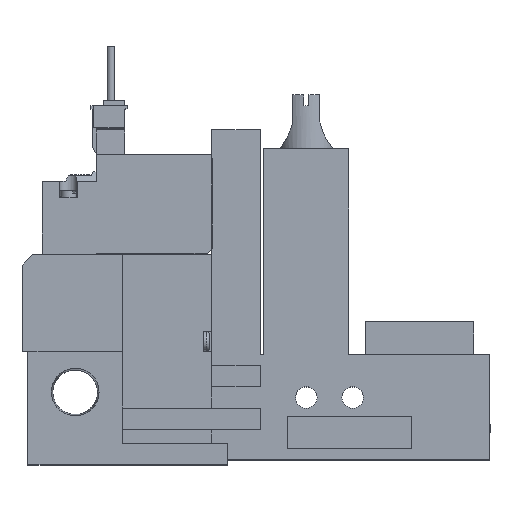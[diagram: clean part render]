
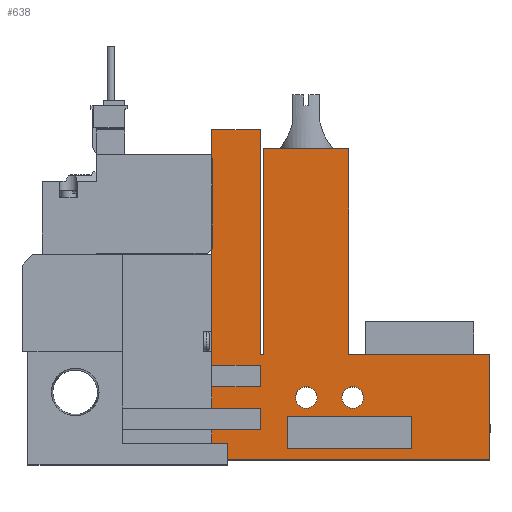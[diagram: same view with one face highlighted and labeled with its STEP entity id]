
A CAD part, top view. The second image highlights one B-rep face of the part: STEP entity #638.
In plain terms, the highlighted planar face has unit normal (0, 0, 1).
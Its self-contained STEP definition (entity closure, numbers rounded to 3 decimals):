
#638=ADVANCED_FACE('',(#1318,#1319,#1320,#1321),#1322,.T.);
#1318=FACE_OUTER_BOUND('',#2140,.T.);
#1319=FACE_BOUND('',#2141,.T.);
#1320=FACE_BOUND('',#2142,.T.);
#1321=FACE_BOUND('',#2143,.T.);
#1322=PLANE('',#2144);
#2140=EDGE_LOOP('',(#4671,#4672,#4673,#4674,#4675,#4676,#4677,#4678,#4679,#4680,#4681,#4682,#4683,#4684,#4685,#4686,#4687,#4688));
#2141=EDGE_LOOP('',(#4689,#4690,#4691,#4692));
#2142=EDGE_LOOP('',(#4693));
#2143=EDGE_LOOP('',(#4694));
#2144=AXIS2_PLACEMENT_3D('',#4695,#4696,#4697);
#4671=ORIENTED_EDGE('',*,*,#6043,.T.);
#4672=ORIENTED_EDGE('',*,*,#5974,.T.);
#4673=ORIENTED_EDGE('',*,*,#5965,.T.);
#4674=ORIENTED_EDGE('',*,*,#6002,.T.);
#4675=ORIENTED_EDGE('',*,*,#5979,.T.);
#4676=ORIENTED_EDGE('',*,*,#6013,.T.);
#4677=ORIENTED_EDGE('',*,*,#5948,.T.);
#4678=ORIENTED_EDGE('',*,*,#6088,.T.);
#4679=ORIENTED_EDGE('',*,*,#6012,.T.);
#4680=ORIENTED_EDGE('',*,*,#6061,.T.);
#4681=ORIENTED_EDGE('',*,*,#5968,.T.);
#4682=ORIENTED_EDGE('',*,*,#6089,.T.);
#4683=ORIENTED_EDGE('',*,*,#6090,.T.);
#4684=ORIENTED_EDGE('',*,*,#5997,.T.);
#4685=ORIENTED_EDGE('',*,*,#6074,.T.);
#4686=ORIENTED_EDGE('',*,*,#6075,.T.);
#4687=ORIENTED_EDGE('',*,*,#6023,.T.);
#4688=ORIENTED_EDGE('',*,*,#6091,.T.);
#4689=ORIENTED_EDGE('',*,*,#6092,.T.);
#4690=ORIENTED_EDGE('',*,*,#6093,.T.);
#4691=ORIENTED_EDGE('',*,*,#6094,.T.);
#4692=ORIENTED_EDGE('',*,*,#6095,.T.);
#4693=ORIENTED_EDGE('',*,*,#6068,.T.);
#4694=ORIENTED_EDGE('',*,*,#6067,.T.);
#4695=CARTESIAN_POINT('',(0.0,0.0,10.0));
#4696=DIRECTION('',(0.0,0.0,1.0));
#4697=DIRECTION('',(1.0,0.0,0.0));
#5948=EDGE_CURVE('',#7308,#7313,#7315,.T.);
#5965=EDGE_CURVE('',#7342,#7347,#7349,.T.);
#5968=EDGE_CURVE('',#7355,#7353,#7356,.T.);
#5974=EDGE_CURVE('',#7360,#7342,#7365,.T.);
#5979=EDGE_CURVE('',#7373,#7371,#7374,.T.);
#5997=EDGE_CURVE('',#7404,#7402,#7405,.T.);
#6002=EDGE_CURVE('',#7347,#7373,#7411,.T.);
#6012=EDGE_CURVE('',#7424,#7428,#7430,.T.);
#6013=EDGE_CURVE('',#7371,#7308,#7431,.T.);
#6023=EDGE_CURVE('',#7449,#7447,#7450,.T.);
#6043=EDGE_CURVE('',#7480,#7360,#7481,.T.);
#6061=EDGE_CURVE('',#7428,#7355,#7507,.T.);
#6067=EDGE_CURVE('',#7516,#7516,#7517,.T.);
#6068=EDGE_CURVE('',#7518,#7518,#7519,.T.);
#6074=EDGE_CURVE('',#7402,#7526,#7528,.T.);
#6075=EDGE_CURVE('',#7526,#7449,#7529,.T.);
#6088=EDGE_CURVE('',#7313,#7424,#7547,.T.);
#6089=EDGE_CURVE('',#7353,#7548,#7549,.T.);
#6090=EDGE_CURVE('',#7548,#7404,#7550,.T.);
#6091=EDGE_CURVE('',#7447,#7480,#7551,.T.);
#6092=EDGE_CURVE('',#7552,#7553,#7554,.T.);
#6093=EDGE_CURVE('',#7553,#7555,#7556,.T.);
#6094=EDGE_CURVE('',#7555,#7557,#7558,.T.);
#6095=EDGE_CURVE('',#7557,#7552,#7559,.T.);
#7308=VERTEX_POINT('',#9488);
#7313=VERTEX_POINT('',#9495);
#7315=LINE('',#9498,#9499);
#7342=VERTEX_POINT('',#9536);
#7347=VERTEX_POINT('',#9543);
#7349=LINE('',#9546,#9547);
#7353=VERTEX_POINT('',#9552);
#7355=VERTEX_POINT('',#9555);
#7356=LINE('',#9556,#9557);
#7360=VERTEX_POINT('',#9562);
#7365=LINE('',#9570,#9571);
#7371=VERTEX_POINT('',#9580);
#7373=VERTEX_POINT('',#9583);
#7374=LINE('',#9584,#9585);
#7402=VERTEX_POINT('',#9628);
#7404=VERTEX_POINT('',#9631);
#7405=LINE('',#9632,#9633);
#7411=LINE('',#9642,#9643);
#7424=VERTEX_POINT('',#9662);
#7428=VERTEX_POINT('',#9668);
#7430=LINE('',#9671,#9672);
#7431=LINE('',#9673,#9674);
#7447=VERTEX_POINT('',#9696);
#7449=VERTEX_POINT('',#9699);
#7450=LINE('',#9700,#9701);
#7480=VERTEX_POINT('',#9748);
#7481=LINE('',#9749,#9750);
#7507=LINE('',#9791,#9792);
#7516=VERTEX_POINT('',#9806);
#7517=CIRCLE('',#9807,2.0);
#7518=VERTEX_POINT('',#9808);
#7519=CIRCLE('',#9809,2.0);
#7526=VERTEX_POINT('',#9841);
#7528=LINE('',#9844,#9845);
#7529=LINE('',#9846,#9847);
#7547=LINE('',#9875,#9876);
#7548=VERTEX_POINT('',#9877);
#7549=LINE('',#9878,#9879);
#7550=LINE('',#9880,#9881);
#7551=LINE('',#9882,#9883);
#7552=VERTEX_POINT('',#9884);
#7553=VERTEX_POINT('',#9885);
#7554=LINE('',#9886,#9887);
#7555=VERTEX_POINT('',#9888);
#7556=LINE('',#9889,#9890);
#7557=VERTEX_POINT('',#9891);
#7558=LINE('',#9892,#9893);
#7559=LINE('',#9894,#9895);
#9488=CARTESIAN_POINT('',(44.1,9.5,10.0));
#9495=CARTESIAN_POINT('',(44.1,5.5,10.0));
#9498=CARTESIAN_POINT('',(44.1,0.0,10.0));
#9499=VECTOR('',#11072,1.0);
#9536=CARTESIAN_POINT('',(44.1,17.5,10.0));
#9543=CARTESIAN_POINT('',(44.1,13.5,10.0));
#9546=CARTESIAN_POINT('',(44.1,0.0,10.0));
#9547=VECTOR('',#11095,1.0);
#9552=CARTESIAN_POINT('',(86.6,19.5,10.0));
#9555=CARTESIAN_POINT('',(86.6,0.0,10.0));
#9556=CARTESIAN_POINT('',(86.6,0.0,10.0));
#9557=VECTOR('',#11098,1.0);
#9562=CARTESIAN_POINT('',(35.1,17.5,10.0));
#9570=CARTESIAN_POINT('',(0.0,17.5,10.0));
#9571=VECTOR('',#11106,1.0);
#9580=CARTESIAN_POINT('',(35.1,9.5,10.0));
#9583=CARTESIAN_POINT('',(35.1,13.5,10.0));
#9584=CARTESIAN_POINT('',(35.1,0.0,10.0));
#9585=VECTOR('',#11111,1.0);
#9628=CARTESIAN_POINT('',(44.75,57.5,10.0));
#9631=CARTESIAN_POINT('',(60.45,57.5,10.0));
#9632=CARTESIAN_POINT('',(60.45,57.5,10.0));
#9633=VECTOR('',#11131,1.0);
#9642=CARTESIAN_POINT('',(0.0,13.5,10.0));
#9643=VECTOR('',#11138,1.0);
#9662=CARTESIAN_POINT('',(35.1,5.5,10.0));
#9668=CARTESIAN_POINT('',(35.1,0.0,10.0));
#9671=CARTESIAN_POINT('',(35.1,0.0,10.0));
#9672=VECTOR('',#11148,1.0);
#9673=CARTESIAN_POINT('',(0.0,9.5,10.0));
#9674=VECTOR('',#11149,1.0);
#9696=CARTESIAN_POINT('',(44.1,61.0,10.0));
#9699=CARTESIAN_POINT('',(44.1,19.5,10.0));
#9700=CARTESIAN_POINT('',(44.1,19.5,10.0));
#9701=VECTOR('',#11163,1.0);
#9748=CARTESIAN_POINT('',(35.1,61.0,10.0));
#9749=CARTESIAN_POINT('',(35.1,61.0,10.0));
#9750=VECTOR('',#11187,1.0);
#9791=CARTESIAN_POINT('',(18.6,0.0,10.0));
#9792=VECTOR('',#11209,1.0);
#9806=CARTESIAN_POINT('',(63.2,11.5,10.0));
#9807=AXIS2_PLACEMENT_3D('',#11215,#11216,#11217);
#9808=CARTESIAN_POINT('',(54.6,11.5,10.0));
#9809=AXIS2_PLACEMENT_3D('',#11218,#11219,#11220);
#9841=CARTESIAN_POINT('',(44.75,19.5,10.0));
#9844=CARTESIAN_POINT('',(44.75,57.5,10.0));
#9845=VECTOR('',#11227,1.0);
#9846=CARTESIAN_POINT('',(44.75,19.5,10.0));
#9847=VECTOR('',#11228,1.0);
#9875=CARTESIAN_POINT('',(0.0,5.5,10.0));
#9876=VECTOR('',#11245,1.0);
#9877=CARTESIAN_POINT('',(60.45,19.5,10.0));
#9878=CARTESIAN_POINT('',(86.6,19.5,10.0));
#9879=VECTOR('',#11246,1.0);
#9880=CARTESIAN_POINT('',(60.45,19.5,10.0));
#9881=VECTOR('',#11247,1.0);
#9882=CARTESIAN_POINT('',(44.1,61.0,10.0));
#9883=VECTOR('',#11248,1.0);
#9884=CARTESIAN_POINT('',(49.1,2.0,10.0));
#9885=CARTESIAN_POINT('',(49.1,8.0,10.0));
#9886=CARTESIAN_POINT('',(49.1,0.0,10.0));
#9887=VECTOR('',#11249,1.0);
#9888=CARTESIAN_POINT('',(72.1,8.0,10.0));
#9889=CARTESIAN_POINT('',(0.0,8.0,10.0));
#9890=VECTOR('',#11250,1.0);
#9891=CARTESIAN_POINT('',(72.1,2.0,10.0));
#9892=CARTESIAN_POINT('',(72.1,0.0,10.0));
#9893=VECTOR('',#11251,1.0);
#9894=CARTESIAN_POINT('',(0.0,2.0,10.0));
#9895=VECTOR('',#11252,1.0);
#11072=DIRECTION('',(0.0,-1.0,0.0));
#11095=DIRECTION('',(0.0,-1.0,0.0));
#11098=DIRECTION('',(0.0,1.0,0.0));
#11106=DIRECTION('',(1.0,0.0,0.0));
#11111=DIRECTION('',(0.0,-1.0,0.0));
#11131=DIRECTION('',(-1.0,0.0,0.0));
#11138=DIRECTION('',(-1.0,0.0,0.0));
#11148=DIRECTION('',(0.0,-1.0,0.0));
#11149=DIRECTION('',(1.0,0.0,0.0));
#11163=DIRECTION('',(0.0,1.0,0.0));
#11187=DIRECTION('',(0.0,-1.0,0.0));
#11209=DIRECTION('',(1.0,0.0,0.0));
#11215=CARTESIAN_POINT('',(61.2,11.5,10.0));
#11216=DIRECTION('',(0.0,0.0,-1.0));
#11217=DIRECTION('',(1.0,0.0,0.0));
#11218=CARTESIAN_POINT('',(52.6,11.5,10.0));
#11219=DIRECTION('',(0.0,0.0,-1.0));
#11220=DIRECTION('',(1.0,0.0,0.0));
#11227=DIRECTION('',(0.0,-1.0,0.0));
#11228=DIRECTION('',(-1.0,0.0,0.0));
#11245=DIRECTION('',(-1.0,0.0,0.0));
#11246=DIRECTION('',(-1.0,0.0,0.0));
#11247=DIRECTION('',(0.0,1.0,0.0));
#11248=DIRECTION('',(-1.0,0.0,0.0));
#11249=DIRECTION('',(0.0,1.0,0.0));
#11250=DIRECTION('',(1.0,0.0,0.0));
#11251=DIRECTION('',(0.0,-1.0,0.0));
#11252=DIRECTION('',(-1.0,0.0,0.0));
